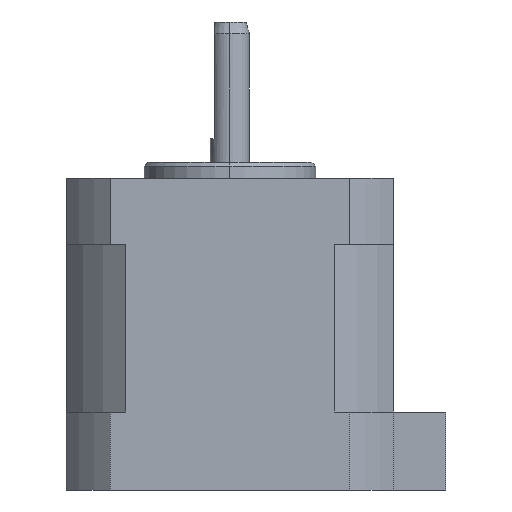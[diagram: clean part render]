
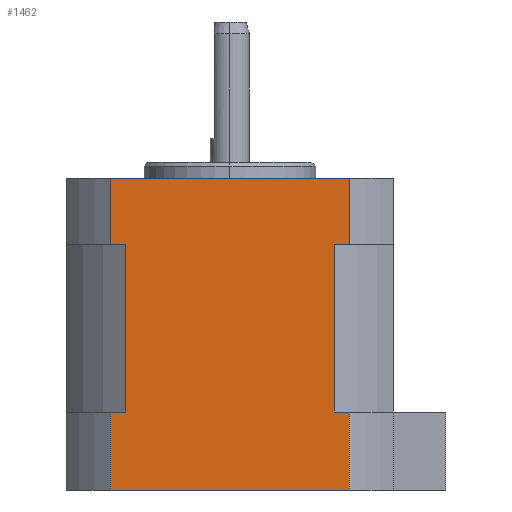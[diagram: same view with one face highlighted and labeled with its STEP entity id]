
A CAD part, left-side view. The second image highlights one B-rep face of the part: STEP entity #1462.
In plain terms, the highlighted planar face has unit normal (-1, 0, 0).
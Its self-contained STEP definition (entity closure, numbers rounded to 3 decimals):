
#59 = VECTOR ( 'NONE', #73, 1000. ) ;
#64 = CARTESIAN_POINT ( 'NONE',  ( -21., 21., -10.5 ) ) ;
#66 = VECTOR ( 'NONE', #1050, 1000. ) ;
#73 = DIRECTION ( 'NONE',  ( 0., 0., 1. ) ) ;
#77 = VECTOR ( 'NONE', #1153, 1000. ) ;
#86 = CARTESIAN_POINT ( 'NONE',  ( -21., 13.379, -32. ) ) ;
#105 = ORIENTED_EDGE ( 'NONE', *, *, #1291, .T. ) ;
#113 = VECTOR ( 'NONE', #1720, 1000. ) ;
#126 = EDGE_LOOP ( 'NONE', ( #959, #316, #178, #105, #1077, #733, #1423, #1413, #524, #1014, #443, #757 ) ) ;
#127 = DIRECTION ( 'NONE',  ( 0., 1., 0. ) ) ;
#154 = CARTESIAN_POINT ( 'NONE',  ( -21., 13.379, -32. ) ) ;
#165 = CARTESIAN_POINT ( 'NONE',  ( -21., -13.379, -10.5 ) ) ;
#178 = ORIENTED_EDGE ( 'NONE', *, *, #1670, .F. ) ;
#199 = VERTEX_POINT ( 'NONE', #897 ) ;
#226 = EDGE_CURVE ( 'NONE', #1469, #1669, #1089, .T. ) ;
#245 = LINE ( 'NONE', #64, #1034 ) ;
#254 = CARTESIAN_POINT ( 'NONE',  ( -21., 13.379, -32. ) ) ;
#258 = VERTEX_POINT ( 'NONE', #165 ) ;
#270 = LINE ( 'NONE', #86, #113 ) ;
#276 = AXIS2_PLACEMENT_3D ( 'NONE', #855, #669, #490 ) ;
#290 = VERTEX_POINT ( 'NONE', #1375 ) ;
#296 = VECTOR ( 'NONE', #1100, 1000. ) ;
#310 = CARTESIAN_POINT ( 'NONE',  ( -21., 21., -10.5 ) ) ;
#316 = ORIENTED_EDGE ( 'NONE', *, *, #1713, .F. ) ;
#336 = CARTESIAN_POINT ( 'NONE',  ( -21., -13.379, -32. ) ) ;
#349 = DIRECTION ( 'NONE',  ( 0., 0., -1. ) ) ;
#406 = VECTOR ( 'NONE', #630, 1000. ) ;
#443 = ORIENTED_EDGE ( 'NONE', *, *, #226, .F. ) ;
#445 = LINE ( 'NONE', #254, #59 ) ;
#484 = DIRECTION ( 'NONE',  ( 0., 1., 0. ) ) ;
#488 = LINE ( 'NONE', #310, #1286 ) ;
#490 = DIRECTION ( 'NONE',  ( 0., 1., 0. ) ) ;
#518 = CARTESIAN_POINT ( 'NONE',  ( -21., -15.33, -36. ) ) ;
#521 = FACE_OUTER_BOUND ( 'NONE', #126, .T. ) ;
#524 = ORIENTED_EDGE ( 'NONE', *, *, #984, .T. ) ;
#552 = EDGE_CURVE ( 'NONE', #290, #872, #1530, .T. ) ;
#576 = VECTOR ( 'NONE', #1025, 1000. ) ;
#615 = CARTESIAN_POINT ( 'NONE',  ( -21., -15.33, -10.5 ) ) ;
#630 = DIRECTION ( 'NONE',  ( 0., 0., 1. ) ) ;
#661 = CARTESIAN_POINT ( 'NONE',  ( -21., -15.33, -42. ) ) ;
#669 = DIRECTION ( 'NONE',  ( 1., 0., 0. ) ) ;
#733 = ORIENTED_EDGE ( 'NONE', *, *, #1213, .F. ) ;
#757 = ORIENTED_EDGE ( 'NONE', *, *, #1270, .T. ) ;
#768 = DIRECTION ( 'NONE',  ( 0., 0., 1. ) ) ;
#819 = CARTESIAN_POINT ( 'NONE',  ( -21., -13.379, -32. ) ) ;
#847 = LINE ( 'NONE', #661, #969 ) ;
#855 = CARTESIAN_POINT ( 'NONE',  ( -21., 21., -10.5 ) ) ;
#872 = VERTEX_POINT ( 'NONE', #336 ) ;
#873 = VERTEX_POINT ( 'NONE', #154 ) ;
#897 = CARTESIAN_POINT ( 'NONE',  ( -21., 15.33, -10.5 ) ) ;
#952 = CARTESIAN_POINT ( 'NONE',  ( -21., 15.33, -42. ) ) ;
#956 = LINE ( 'NONE', #1242, #66 ) ;
#959 = ORIENTED_EDGE ( 'NONE', *, *, #1240, .F. ) ;
#961 = VERTEX_POINT ( 'NONE', #1201 ) ;
#969 = VECTOR ( 'NONE', #484, 1000. ) ;
#984 = EDGE_CURVE ( 'NONE', #872, #258, #1008, .T. ) ;
#1008 = LINE ( 'NONE', #819, #406 ) ;
#1014 = ORIENTED_EDGE ( 'NONE', *, *, #1613, .F. ) ;
#1025 = DIRECTION ( 'NONE',  ( 0., 0., 1. ) ) ;
#1027 = VERTEX_POINT ( 'NONE', #1723 ) ;
#1034 = VECTOR ( 'NONE', #1697, 1000. ) ;
#1048 = PLANE ( 'NONE',  #276 ) ;
#1050 = DIRECTION ( 'NONE',  ( 0., 1., 0. ) ) ;
#1077 = ORIENTED_EDGE ( 'NONE', *, *, #1433, .F. ) ;
#1089 = LINE ( 'NONE', #518, #1371 ) ;
#1100 = DIRECTION ( 'NONE',  ( 0., 0., 1. ) ) ;
#1142 = LINE ( 'NONE', #952, #1202 ) ;
#1153 = DIRECTION ( 'NONE',  ( 0., 1., 0. ) ) ;
#1200 = VERTEX_POINT ( 'NONE', #1231 ) ;
#1201 = CARTESIAN_POINT ( 'NONE',  ( -21., 15.33, -32. ) ) ;
#1202 = VECTOR ( 'NONE', #768, 1000. ) ;
#1213 = EDGE_CURVE ( 'NONE', #1200, #1027, #847, .T. ) ;
#1215 = CARTESIAN_POINT ( 'NONE',  ( -21., -15.33, -42. ) ) ;
#1231 = CARTESIAN_POINT ( 'NONE',  ( -21., -15.33, -42. ) ) ;
#1240 = EDGE_CURVE ( 'NONE', #199, #1417, #1480, .T. ) ;
#1242 = CARTESIAN_POINT ( 'NONE',  ( -21., 21., -2. ) ) ;
#1270 = EDGE_CURVE ( 'NONE', #1469, #1417, #956, .T. ) ;
#1286 = VECTOR ( 'NONE', #127, 1000. ) ;
#1290 = CARTESIAN_POINT ( 'NONE',  ( -21., 15.33, -36. ) ) ;
#1291 = EDGE_CURVE ( 'NONE', #873, #961, #270, .T. ) ;
#1340 = CARTESIAN_POINT ( 'NONE',  ( -21., 13.379, -32. ) ) ;
#1371 = VECTOR ( 'NONE', #349, 1000. ) ;
#1375 = CARTESIAN_POINT ( 'NONE',  ( -21., -15.33, -32. ) ) ;
#1405 = LINE ( 'NONE', #1215, #576 ) ;
#1413 = ORIENTED_EDGE ( 'NONE', *, *, #552, .T. ) ;
#1417 = VERTEX_POINT ( 'NONE', #1758 ) ;
#1423 = ORIENTED_EDGE ( 'NONE', *, *, #1816, .T. ) ;
#1433 = EDGE_CURVE ( 'NONE', #1027, #961, #1142, .T. ) ;
#1462 = ADVANCED_FACE ( 'NONE', ( #521 ), #1048, .F. ) ;
#1469 = VERTEX_POINT ( 'NONE', #1570 ) ;
#1476 = VERTEX_POINT ( 'NONE', #1718 ) ;
#1480 = LINE ( 'NONE', #1290, #296 ) ;
#1530 = LINE ( 'NONE', #1340, #77 ) ;
#1570 = CARTESIAN_POINT ( 'NONE',  ( -21., -15.33, -2. ) ) ;
#1613 = EDGE_CURVE ( 'NONE', #1669, #258, #245, .T. ) ;
#1669 = VERTEX_POINT ( 'NONE', #615 ) ;
#1670 = EDGE_CURVE ( 'NONE', #873, #1476, #445, .T. ) ;
#1697 = DIRECTION ( 'NONE',  ( 0., 1., 0. ) ) ;
#1713 = EDGE_CURVE ( 'NONE', #1476, #199, #488, .T. ) ;
#1718 = CARTESIAN_POINT ( 'NONE',  ( -21., 13.379, -10.5 ) ) ;
#1720 = DIRECTION ( 'NONE',  ( 0., 1., 0. ) ) ;
#1723 = CARTESIAN_POINT ( 'NONE',  ( -21., 15.33, -42. ) ) ;
#1758 = CARTESIAN_POINT ( 'NONE',  ( -21., 15.33, -2. ) ) ;
#1816 = EDGE_CURVE ( 'NONE', #1200, #290, #1405, .T. ) ;
